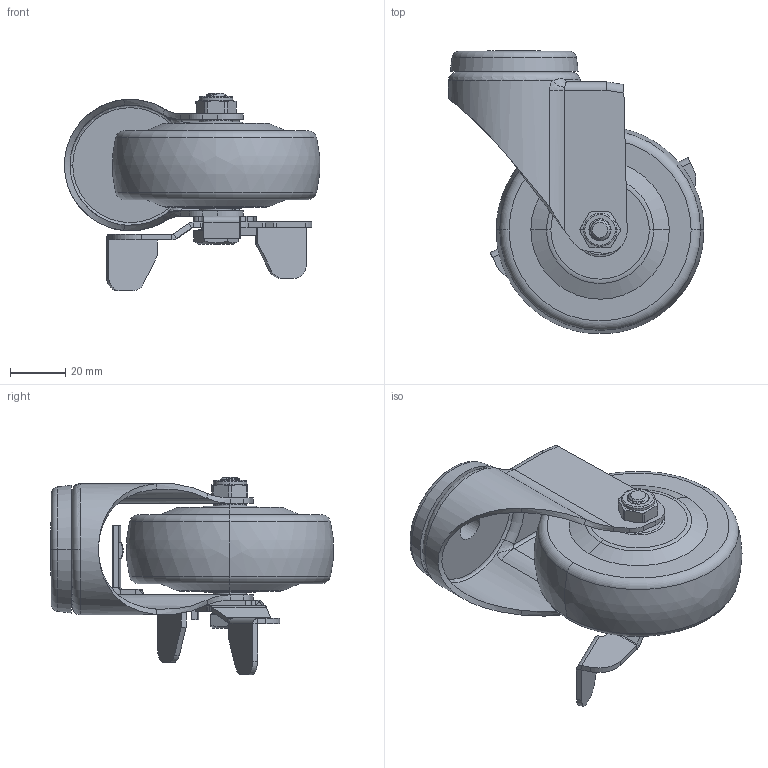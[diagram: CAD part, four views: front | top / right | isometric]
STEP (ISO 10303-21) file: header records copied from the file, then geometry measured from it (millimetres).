
FILE_DESCRIPTION((''),'2;1');
FILE_NAME('36183C-363-64_ASM','2020-01-05T',('L'),(''),'PRO/ENGINEER BY PARAMETRIC TECHNOLOGY CORPORATION, 2010280','PRO/ENGINEER BY PARAMETRIC TECHNOLOGY CORPORATION, 2010280','');
FILE_SCHEMA(('CONFIG_CONTROL_DESIGN'));
Length unit declared in the file: millimetre
Products named in the file (7): 36183C; 363-964; 302-33; 300-34; 303-15; 300-14; 36183C-363-64_ASM
Assembly tree (6 placements, depth 2):
  36183C-363-64_ASM
    36183C
    363-964
    302-33
    300-34
    303-15
    300-14
Bounding box: 92.11 x 102.16 x 71.4 mm (x, y, z)
Volume: 147505.5 mm3; surface area: 42646.6 mm2
Topology: 7 solids, 7 shells, 352 faces, 826 edges, 502 vertices
Faces by surface type: plane 133, cylinder 115, bspline 44, torus 34, cone 26
Entity records: 15470 total; most frequent: CARTESIAN_POINT 7459, ORIENTED_EDGE 1652, DIRECTION 1600, EDGE_CURVE 826, AXIS2_PLACEMENT_3D 605, VERTEX_POINT 502, VECTOR 390, LINE 390
